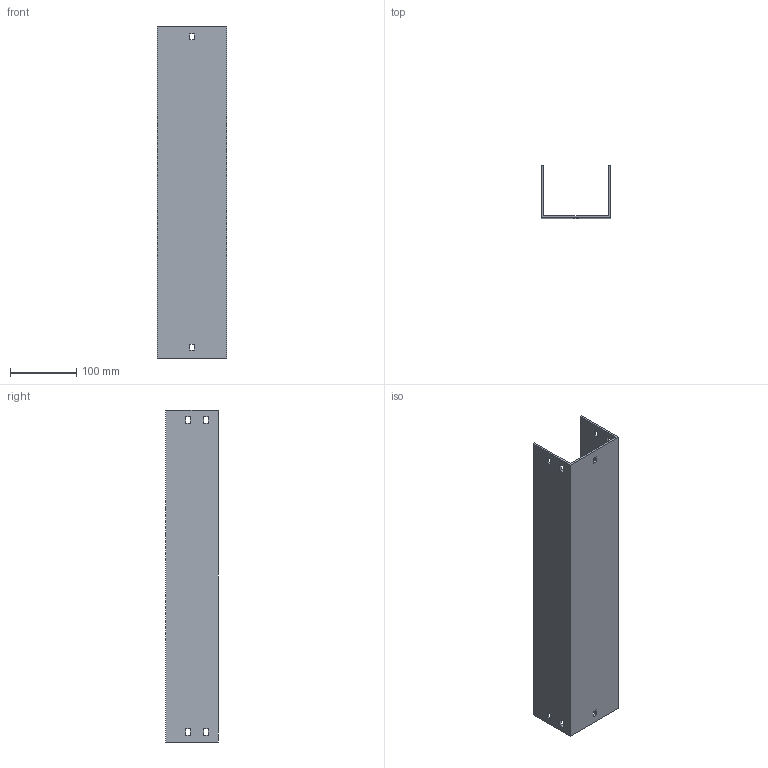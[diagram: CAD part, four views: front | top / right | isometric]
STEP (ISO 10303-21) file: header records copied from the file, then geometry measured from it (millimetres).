
FILE_DESCRIPTION (( 'STEP AP214' ), '1' );
FILE_NAME ('03F7C100.step', '2025-02-21T13:32:54', ( '' ), ( '' ), 'SwSTEP 2.0', 'SolidWorks 2023', '' );
FILE_SCHEMA (( 'AUTOMOTIVE_DESIGN' ));
Length unit declared in the file: millimetre
Products named in the file (1): 03F7C100
Bounding box: 104 x 79 x 500 mm (x, y, z)
Volume: 443880.5 mm3; surface area: 260100 mm2
Topology: 1 solids, 1 shells, 50 faces, 144 edges, 96 vertices
Faces by surface type: plane 50
Entity records: 1671 total; most frequent: CARTESIAN_POINT 291, ORIENTED_EDGE 288, DIRECTION 246, EDGE_CURVE 144, LINE 144, VECTOR 144, VERTEX_POINT 96, EDGE_LOOP 70
